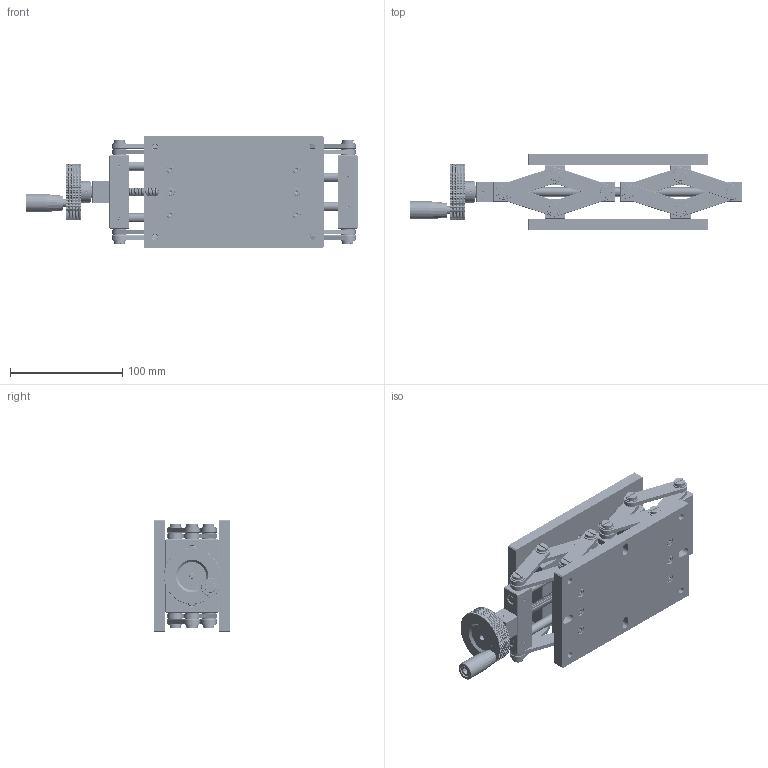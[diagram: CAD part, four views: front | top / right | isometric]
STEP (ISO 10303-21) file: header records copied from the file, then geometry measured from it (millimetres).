
FILE_DESCRIPTION (( 'STEP AP203' ), '1' );
FILE_NAME ('BLJZ1016.STEP', '2024-07-15T12:45:37', ( 'Windows User' ), ( 'P R C' ), 'SwSTEP 2.0', 'SolidWorks 2024', '' );
FILE_SCHEMA (( 'CONFIG_CONTROL_DESIGN' ));
Products named in the file (1): BLJZ1016
Bounding box: 295.19 x 68 x 100 mm (x, y, z)
Volume: 590615 mm3; surface area: 224224.8 mm2
Topology: 141 solids, 141 shells, 6521 faces, 17565 edges, 11424 vertices
Faces by surface type: cone 2484, cylinder 2452, plane 1495, bspline 59, torus 31
Full cylindrical faces by diameter (mm): 2.5 x7, 3 x6, 3.3 x57, 3.4 x4, 3.5 x16, 4 x31, 4.5 x12, 5 x15, 5.5 x4, 6 x65, 6.02 x14, 6.5 x50, 7 x13, 8 x36, 8.5 x3, 9 x1, 10 x22, 11 x4, 11.6 x1, 12 x49, 12.5 x2, 13 x2, 14 x2, 14.5 x1, 15 x1, 16 x1, 19 x1
Entity records: 245892 total; most frequent: CARTESIAN_POINT 90908, ORIENTED_EDGE 33122, DIRECTION 30545, EDGE_CURVE 16561, AXIS2_PLACEMENT_3D 12107, VERTEX_POINT 11206, EDGE_LOOP 7701, FACE_OUTER_BOUND 6941
